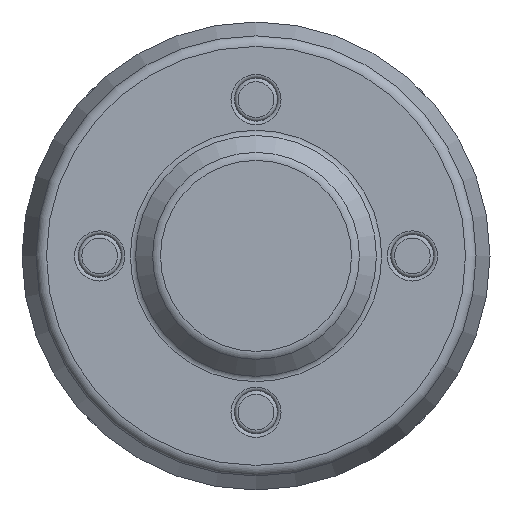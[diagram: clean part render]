
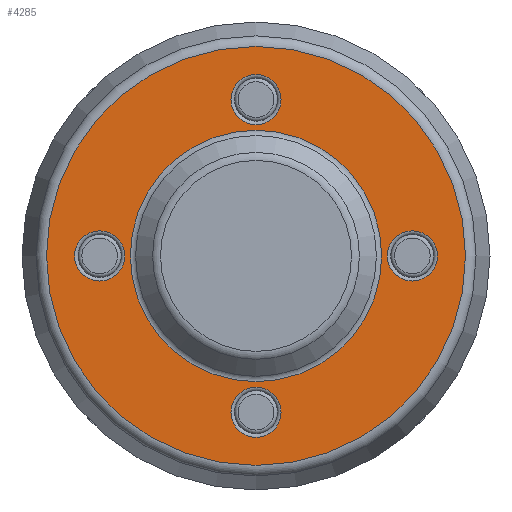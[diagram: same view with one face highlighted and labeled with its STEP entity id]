
A CAD part, top view. The second image highlights one B-rep face of the part: STEP entity #4285.
In plain terms, the highlighted planar face has unit normal (0, 0, 1).
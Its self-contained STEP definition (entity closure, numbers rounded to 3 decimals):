
#4285=ADVANCED_FACE('',(#11656,#11658,#11660,#11662,#11664,#11666),#11668,.T.);
#11656=FACE_BOUND('',#11657,.T.);
#11657=EDGE_LOOP('',(#85183));
#11658=FACE_BOUND('',#11659,.T.);
#11659=EDGE_LOOP('',(#85184));
#11660=FACE_BOUND('',#11661,.T.);
#11661=EDGE_LOOP('',(#85185));
#11662=FACE_BOUND('',#11663,.T.);
#11663=EDGE_LOOP('',(#85186));
#11664=FACE_BOUND('',#11665,.T.);
#11665=EDGE_LOOP('',(#85187));
#11666=FACE_BOUND('',#11667,.T.);
#11667=EDGE_LOOP('',(#85188));
#11668=PLANE('',#11669);
#11669=AXIS2_PLACEMENT_3D('',#11670,#11671,#11672);
#11670=CARTESIAN_POINT('',(0.,0.,-12.));
#11671=DIRECTION('',(0.,0.,1.));
#11672=DIRECTION('',(-1.,0.,0.));
#85183=ORIENTED_EDGE('',*,*,#90363,.F.);
#85184=ORIENTED_EDGE('',*,*,#90364,.F.);
#85185=ORIENTED_EDGE('',*,*,#90365,.F.);
#85186=ORIENTED_EDGE('',*,*,#90366,.T.);
#85187=ORIENTED_EDGE('',*,*,#90367,.F.);
#85188=ORIENTED_EDGE('',*,*,#90368,.F.);
#90363=EDGE_CURVE('',#94938,#94938,#94939,.T.);
#90364=EDGE_CURVE('',#94940,#94940,#94941,.F.);
#90365=EDGE_CURVE('',#94942,#94942,#94943,.F.);
#90366=EDGE_CURVE('',#94944,#94944,#94945,.T.);
#90367=EDGE_CURVE('',#94946,#94946,#94947,.F.);
#90368=EDGE_CURVE('',#94948,#94948,#94949,.F.);
#94938=VERTEX_POINT('',#120554);
#94939=CIRCLE('',#120555,111.918);
#94940=VERTEX_POINT('',#120559);
#94941=CIRCLE('',#120560,13.4);
#94942=VERTEX_POINT('',#120564);
#94943=CIRCLE('',#120565,13.4);
#94944=VERTEX_POINT('',#120569);
#94945=CIRCLE('',#120570,67.157);
#94946=VERTEX_POINT('',#120574);
#94947=CIRCLE('',#120575,13.4);
#94948=VERTEX_POINT('',#120579);
#94949=CIRCLE('',#120580,13.4);
#120554=CARTESIAN_POINT('',(-111.918,0.,-12.));
#120555=AXIS2_PLACEMENT_3D('',#120556,#120557,#120558);
#120556=CARTESIAN_POINT('',(0.,0.,-12.));
#120557=DIRECTION('',(0.,0.,-1.));
#120558=DIRECTION('',(-1.,0.,0.));
#120559=CARTESIAN_POINT('',(0.,96.9,-12.));
#120560=AXIS2_PLACEMENT_3D('',#120561,#120562,#120563);
#120561=CARTESIAN_POINT('',(0.,83.5,-12.));
#120562=DIRECTION('',(0.,0.,-1.));
#120563=DIRECTION('',(0.,1.,0.));
#120564=CARTESIAN_POINT('',(0.,-96.9,-12.));
#120565=AXIS2_PLACEMENT_3D('',#120566,#120567,#120568);
#120566=CARTESIAN_POINT('',(0.,-83.5,-12.));
#120567=DIRECTION('',(0.,0.,-1.));
#120568=DIRECTION('',(0.,-1.,0.));
#120569=CARTESIAN_POINT('',(-67.157,0.,-12.));
#120570=AXIS2_PLACEMENT_3D('',#120571,#120572,#120573);
#120571=CARTESIAN_POINT('',(0.,0.,-12.));
#120572=DIRECTION('',(0.,0.,-1.));
#120573=DIRECTION('',(-1.,0.,0.));
#120574=CARTESIAN_POINT('',(-96.9,0.,-12.));
#120575=AXIS2_PLACEMENT_3D('',#120576,#120577,#120578);
#120576=CARTESIAN_POINT('',(-83.5,0.,-12.));
#120577=DIRECTION('',(0.,0.,-1.));
#120578=DIRECTION('',(-1.,0.,0.));
#120579=CARTESIAN_POINT('',(96.9,0.,-12.));
#120580=AXIS2_PLACEMENT_3D('',#120581,#120582,#120583);
#120581=CARTESIAN_POINT('',(83.5,0.,-12.));
#120582=DIRECTION('',(0.,0.,-1.));
#120583=DIRECTION('',(1.,0.,0.));
